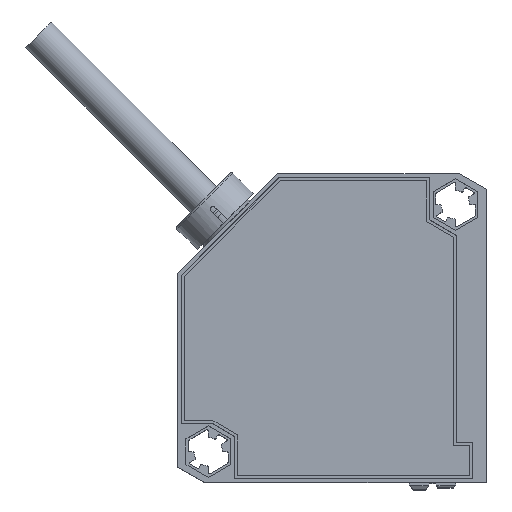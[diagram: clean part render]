
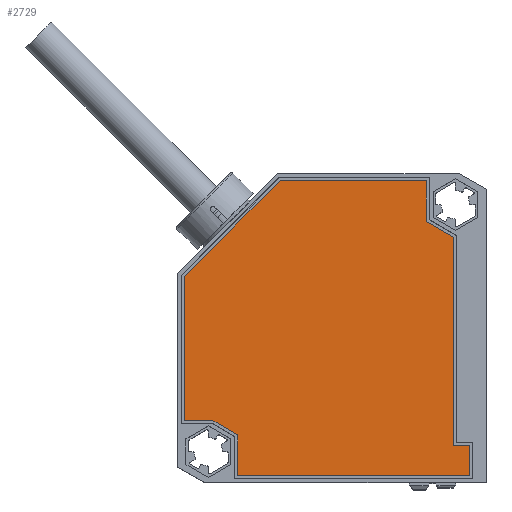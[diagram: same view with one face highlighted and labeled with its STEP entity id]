
A CAD part, top view. The second image highlights one B-rep face of the part: STEP entity #2729.
In plain terms, the highlighted planar face has unit normal (0, 0, 1).
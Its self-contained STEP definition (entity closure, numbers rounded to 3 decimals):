
#157 = CARTESIAN_POINT ( 'NONE',  ( -221015.303, -0.01, 18. ) ) ;
#461 = CARTESIAN_POINT ( 'NONE',  ( -220999.99, 23.94, 18. ) ) ;
#563 = DIRECTION ( 'NONE',  ( 1., 0., 0. ) ) ;
#564 = VERTEX_POINT ( 'NONE', #6944 ) ;
#607 = CARTESIAN_POINT ( 'NONE',  ( -220999.99, -15.01, 18. ) ) ;
#725 = VECTOR ( 'NONE', #6652, 1000. ) ;
#726 = EDGE_CURVE ( 'NONE', #7282, #8763, #4683, .T. ) ;
#729 = VERTEX_POINT ( 'NONE', #5509 ) ;
#803 = VERTEX_POINT ( 'NONE', #6540 ) ;
#1168 = DIRECTION ( 'NONE',  ( 1., 0., 0. ) ) ;
#1210 = VERTEX_POINT ( 'NONE', #8234 ) ;
#1233 = VECTOR ( 'NONE', #9444, 1000. ) ;
#1244 = CARTESIAN_POINT ( 'NONE',  ( -220984.677, -0.01, 18. ) ) ;
#1248 = VERTEX_POINT ( 'NONE', #10004 ) ;
#1257 = EDGE_CURVE ( 'NONE', #564, #8057, #9278, .T. ) ;
#1402 = ORIENTED_EDGE ( 'NONE', *, *, #3507, .F. ) ;
#1665 = LINE ( 'NONE', #4805, #2883 ) ;
#1819 = VECTOR ( 'NONE', #4684, 1000. ) ;
#1901 = VECTOR ( 'NONE', #563, 1000. ) ;
#1960 = CARTESIAN_POINT ( 'NONE',  ( -220980.24, -0.01, 18. ) ) ;
#2011 = EDGE_CURVE ( 'NONE', #7812, #9062, #3246, .T. ) ;
#2079 = CARTESIAN_POINT ( 'NONE',  ( -220977.64, -0.01, 18. ) ) ;
#2142 = CARTESIAN_POINT ( 'NONE',  ( -220999.99, -19.014, 18. ) ) ;
#2179 = LINE ( 'NONE', #2079, #3600 ) ;
#2406 = ORIENTED_EDGE ( 'NONE', *, *, #6144, .F. ) ;
#2492 = DIRECTION ( 'NONE',  ( -1., 0., 0. ) ) ;
#2716 = VECTOR ( 'NONE', #7886, 1000. ) ;
#2729 = ADVANCED_FACE ( 'NONE', ( #5381 ), #10093, .F. ) ;
#2883 = VECTOR ( 'NONE', #2492, 1000. ) ;
#2981 = CARTESIAN_POINT ( 'NONE',  ( -221023.94, 8.384, 18. ) ) ;
#2989 = CARTESIAN_POINT ( 'NONE',  ( -221023.94, -0.01, 18. ) ) ;
#3040 = DIRECTION ( 'NONE',  ( 0., -1., 0. ) ) ;
#3128 = VECTOR ( 'NONE', #3040, 1000. ) ;
#3135 = CARTESIAN_POINT ( 'NONE',  ( -220984.677, 17.305, 18. ) ) ;
#3246 = LINE ( 'NONE', #157, #2716 ) ;
#3320 = EDGE_CURVE ( 'NONE', #803, #7812, #1665, .T. ) ;
#3368 = CARTESIAN_POINT ( 'NONE',  ( -220984.677, 17.305, 18. ) ) ;
#3494 = CARTESIAN_POINT ( 'NONE',  ( -220977.64, -19.014, 18. ) ) ;
#3507 = EDGE_CURVE ( 'NONE', #8057, #9736, #6031, .T. ) ;
#3582 = CARTESIAN_POINT ( 'NONE',  ( -221023.94, -15.01, 18. ) ) ;
#3600 = VECTOR ( 'NONE', #9208, 1000. ) ;
#3704 = CARTESIAN_POINT ( 'NONE',  ( -221023.94, 8.384, 18. ) ) ;
#3850 = LINE ( 'NONE', #9226, #8063 ) ;
#3978 = EDGE_CURVE ( 'NONE', #8763, #1210, #10023, .T. ) ;
#4436 = DIRECTION ( 'NONE',  ( 0., 1., 0. ) ) ;
#4515 = ORIENTED_EDGE ( 'NONE', *, *, #5456, .F. ) ;
#4683 = LINE ( 'NONE', #3135, #1233 ) ;
#4684 = DIRECTION ( 'NONE',  ( 0.707, 0.707, 0. ) ) ;
#4805 = CARTESIAN_POINT ( 'NONE',  ( -220999.99, -23.96, 18. ) ) ;
#5050 = VERTEX_POINT ( 'NONE', #3494 ) ;
#5082 = ORIENTED_EDGE ( 'NONE', *, *, #7838, .F. ) ;
#5125 = EDGE_CURVE ( 'NONE', #1210, #5050, #5190, .T. ) ;
#5190 = LINE ( 'NONE', #2142, #9426 ) ;
#5381 = FACE_OUTER_BOUND ( 'NONE', #9488, .T. ) ;
#5456 = EDGE_CURVE ( 'NONE', #729, #7282, #9689, .T. ) ;
#5509 = CARTESIAN_POINT ( 'NONE',  ( -220984.677, 23.94, 18. ) ) ;
#5534 = AXIS2_PLACEMENT_3D ( 'NONE', #8376, #6047, #5999 ) ;
#5999 = DIRECTION ( 'NONE',  ( 0., -1., 0. ) ) ;
#6024 = LINE ( 'NONE', #2981, #1819 ) ;
#6031 = LINE ( 'NONE', #2989, #8656 ) ;
#6047 = DIRECTION ( 'NONE',  ( 0., 0., -1. ) ) ;
#6144 = EDGE_CURVE ( 'NONE', #9736, #1248, #6024, .T. ) ;
#6454 = CARTESIAN_POINT ( 'NONE',  ( -220980.24, 14.743, 18. ) ) ;
#6540 = CARTESIAN_POINT ( 'NONE',  ( -220977.64, -23.96, 18. ) ) ;
#6652 = DIRECTION ( 'NONE',  ( 0., -1., 0. ) ) ;
#6731 = DIRECTION ( 'NONE',  ( -1., 0., 0. ) ) ;
#6738 = LINE ( 'NONE', #461, #1901 ) ;
#6944 = CARTESIAN_POINT ( 'NONE',  ( -221019.312, -15.01, 18. ) ) ;
#6982 = EDGE_CURVE ( 'NONE', #5050, #803, #2179, .T. ) ;
#7095 = ORIENTED_EDGE ( 'NONE', *, *, #6982, .F. ) ;
#7282 = VERTEX_POINT ( 'NONE', #3368 ) ;
#7668 = DIRECTION ( 'NONE',  ( -0.866, 0.5, 0. ) ) ;
#7812 = VERTEX_POINT ( 'NONE', #10157 ) ;
#7838 = EDGE_CURVE ( 'NONE', #9062, #564, #3850, .T. ) ;
#7886 = DIRECTION ( 'NONE',  ( 0., 1., 0. ) ) ;
#8057 = VERTEX_POINT ( 'NONE', #3582 ) ;
#8063 = VECTOR ( 'NONE', #7668, 1000. ) ;
#8222 = CARTESIAN_POINT ( 'NONE',  ( -221015.303, -17.325, 18. ) ) ;
#8234 = CARTESIAN_POINT ( 'NONE',  ( -220980.24, -19.014, 18. ) ) ;
#8376 = CARTESIAN_POINT ( 'NONE',  ( -220999.99, -0.01, 18. ) ) ;
#8625 = VECTOR ( 'NONE', #6731, 1000. ) ;
#8656 = VECTOR ( 'NONE', #4436, 1000. ) ;
#8705 = ORIENTED_EDGE ( 'NONE', *, *, #726, .F. ) ;
#8763 = VERTEX_POINT ( 'NONE', #6454 ) ;
#9062 = VERTEX_POINT ( 'NONE', #8222 ) ;
#9168 = ORIENTED_EDGE ( 'NONE', *, *, #3978, .F. ) ;
#9208 = DIRECTION ( 'NONE',  ( 0., -1., 0. ) ) ;
#9226 = CARTESIAN_POINT ( 'NONE',  ( -221015.303, -17.325, 18. ) ) ;
#9278 = LINE ( 'NONE', #607, #8625 ) ;
#9422 = ORIENTED_EDGE ( 'NONE', *, *, #2011, .F. ) ;
#9426 = VECTOR ( 'NONE', #1168, 1000. ) ;
#9444 = DIRECTION ( 'NONE',  ( 0.866, -0.5, 0. ) ) ;
#9488 = EDGE_LOOP ( 'NONE', ( #9784, #9168, #8705, #4515, #9586, #2406, #1402, #9856, #5082, #9422, #9863, #7095 ) ) ;
#9586 = ORIENTED_EDGE ( 'NONE', *, *, #9682, .F. ) ;
#9682 = EDGE_CURVE ( 'NONE', #1248, #729, #6738, .T. ) ;
#9689 = LINE ( 'NONE', #1244, #3128 ) ;
#9736 = VERTEX_POINT ( 'NONE', #3704 ) ;
#9784 = ORIENTED_EDGE ( 'NONE', *, *, #5125, .F. ) ;
#9856 = ORIENTED_EDGE ( 'NONE', *, *, #1257, .F. ) ;
#9863 = ORIENTED_EDGE ( 'NONE', *, *, #3320, .F. ) ;
#10004 = CARTESIAN_POINT ( 'NONE',  ( -221008.384, 23.94, 18. ) ) ;
#10023 = LINE ( 'NONE', #1960, #725 ) ;
#10093 = PLANE ( 'NONE',  #5534 ) ;
#10157 = CARTESIAN_POINT ( 'NONE',  ( -221015.303, -23.96, 18. ) ) ;
